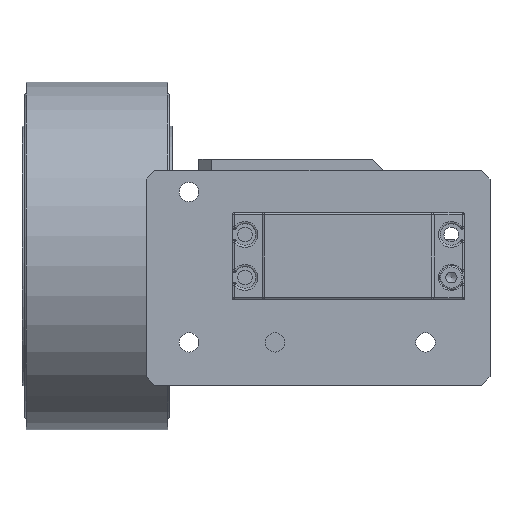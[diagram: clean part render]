
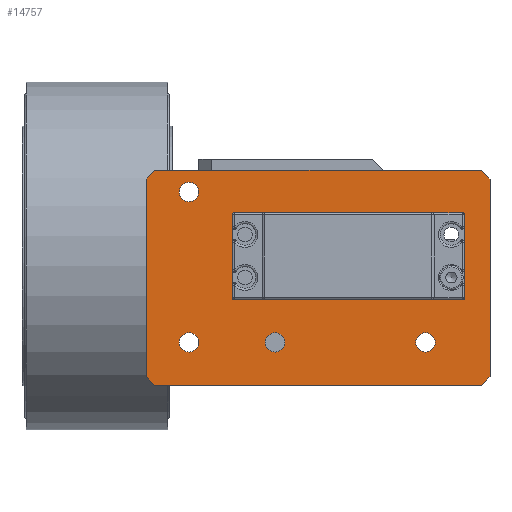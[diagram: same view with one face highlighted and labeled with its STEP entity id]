
A CAD part, front view. The second image highlights one B-rep face of the part: STEP entity #14757.
In plain terms, the highlighted planar face has unit normal (0, -1, 0).
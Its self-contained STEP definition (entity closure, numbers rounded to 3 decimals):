
#1045=FACE_BOUND('',#2924,.T.);
#1046=FACE_BOUND('',#2925,.T.);
#1047=FACE_BOUND('',#2926,.T.);
#1048=FACE_BOUND('',#2927,.T.);
#1049=FACE_BOUND('',#2928,.T.);
#1215=CIRCLE('',#15977,2.25);
#1219=CIRCLE('',#15984,2.25);
#1223=CIRCLE('',#15991,2.25);
#1227=CIRCLE('',#15998,2.25);
#2005=FACE_OUTER_BOUND('',#2923,.T.);
#2923=EDGE_LOOP('',(#10165,#10166,#10167,#10168,#10169,#10170,#10171,#10172));
#2924=EDGE_LOOP('',(#10173));
#2925=EDGE_LOOP('',(#10174));
#2926=EDGE_LOOP('',(#10175));
#2927=EDGE_LOOP('',(#10176));
#2928=EDGE_LOOP('',(#10177,#10178,#10179,#10180));
#4053=LINE('',#22493,#5280);
#4056=LINE('',#22498,#5283);
#4058=LINE('',#22502,#5285);
#4066=LINE('',#22520,#5293);
#4069=LINE('',#22525,#5296);
#4070=LINE('',#22527,#5297);
#4072=LINE('',#22531,#5299);
#4073=LINE('',#22532,#5300);
#4074=LINE('',#22535,#5301);
#4075=LINE('',#22537,#5302);
#4076=LINE('',#22539,#5303);
#4077=LINE('',#22540,#5304);
#5280=VECTOR('',#17888,10.);
#5283=VECTOR('',#17893,10.);
#5285=VECTOR('',#17897,10.);
#5293=VECTOR('',#17909,10.);
#5296=VECTOR('',#17914,10.);
#5297=VECTOR('',#17917,10.);
#5299=VECTOR('',#17921,10.);
#5300=VECTOR('',#17922,10.);
#5301=VECTOR('',#17923,10.);
#5302=VECTOR('',#17924,10.);
#5303=VECTOR('',#17925,10.);
#5304=VECTOR('',#17926,10.);
#6443=VERTEX_POINT('',#22360);
#6447=VERTEX_POINT('',#22373);
#6451=VERTEX_POINT('',#22386);
#6455=VERTEX_POINT('',#22399);
#6490=VERTEX_POINT('',#22490);
#6491=VERTEX_POINT('',#22492);
#6492=VERTEX_POINT('',#22496);
#6493=VERTEX_POINT('',#22500);
#6500=VERTEX_POINT('',#22517);
#6501=VERTEX_POINT('',#22519);
#6502=VERTEX_POINT('',#22523);
#6503=VERTEX_POINT('',#22530);
#6504=VERTEX_POINT('',#22533);
#6505=VERTEX_POINT('',#22534);
#6506=VERTEX_POINT('',#22536);
#6507=VERTEX_POINT('',#22538);
#7830=EDGE_CURVE('',#6443,#6443,#1215,.T.);
#7836=EDGE_CURVE('',#6447,#6447,#1219,.T.);
#7842=EDGE_CURVE('',#6451,#6451,#1223,.T.);
#7848=EDGE_CURVE('',#6455,#6455,#1227,.T.);
#7892=EDGE_CURVE('',#6490,#6491,#4053,.T.);
#7895=EDGE_CURVE('',#6492,#6490,#4056,.T.);
#7897=EDGE_CURVE('',#6493,#6492,#4058,.T.);
#7905=EDGE_CURVE('',#6500,#6501,#4066,.T.);
#7908=EDGE_CURVE('',#6502,#6500,#4069,.T.);
#7909=EDGE_CURVE('',#6491,#6502,#4070,.T.);
#7911=EDGE_CURVE('',#6503,#6493,#4072,.T.);
#7912=EDGE_CURVE('',#6501,#6503,#4073,.T.);
#7913=EDGE_CURVE('',#6504,#6505,#4074,.T.);
#7914=EDGE_CURVE('',#6505,#6506,#4075,.T.);
#7915=EDGE_CURVE('',#6506,#6507,#4076,.T.);
#7916=EDGE_CURVE('',#6507,#6504,#4077,.T.);
#10165=ORIENTED_EDGE('',*,*,#7897,.F.);
#10166=ORIENTED_EDGE('',*,*,#7911,.F.);
#10167=ORIENTED_EDGE('',*,*,#7912,.F.);
#10168=ORIENTED_EDGE('',*,*,#7905,.F.);
#10169=ORIENTED_EDGE('',*,*,#7908,.F.);
#10170=ORIENTED_EDGE('',*,*,#7909,.F.);
#10171=ORIENTED_EDGE('',*,*,#7892,.F.);
#10172=ORIENTED_EDGE('',*,*,#7895,.F.);
#10173=ORIENTED_EDGE('',*,*,#7830,.T.);
#10174=ORIENTED_EDGE('',*,*,#7836,.T.);
#10175=ORIENTED_EDGE('',*,*,#7842,.T.);
#10176=ORIENTED_EDGE('',*,*,#7848,.T.);
#10177=ORIENTED_EDGE('',*,*,#7913,.T.);
#10178=ORIENTED_EDGE('',*,*,#7914,.T.);
#10179=ORIENTED_EDGE('',*,*,#7915,.T.);
#10180=ORIENTED_EDGE('',*,*,#7916,.T.);
#14309=PLANE('',#16021);
#14757=ADVANCED_FACE('',(#2005,#1045,#1046,#1047,#1048,#1049),#14309,.F.);
#15977=AXIS2_PLACEMENT_3D('',#22362,#17767,#17768);
#15984=AXIS2_PLACEMENT_3D('',#22375,#17783,#17784);
#15991=AXIS2_PLACEMENT_3D('',#22388,#17799,#17800);
#15998=AXIS2_PLACEMENT_3D('',#22401,#17815,#17816);
#16021=AXIS2_PLACEMENT_3D('',#22529,#17919,#17920);
#17767=DIRECTION('center_axis',(0.,1.,0.));
#17768=DIRECTION('ref_axis',(1.,0.,0.));
#17783=DIRECTION('center_axis',(0.,1.,0.));
#17784=DIRECTION('ref_axis',(1.,0.,0.));
#17799=DIRECTION('center_axis',(0.,1.,0.));
#17800=DIRECTION('ref_axis',(1.,0.,0.));
#17815=DIRECTION('center_axis',(0.,1.,0.));
#17816=DIRECTION('ref_axis',(1.,0.,0.));
#17888=DIRECTION('',(-0.707,0.,-0.707));
#17893=DIRECTION('',(0.,0.,-1.));
#17897=DIRECTION('',(0.707,0.,-0.707));
#17909=DIRECTION('',(0.,0.,1.));
#17914=DIRECTION('',(-0.707,0.,0.707));
#17917=DIRECTION('',(-1.,0.,0.));
#17919=DIRECTION('center_axis',(0.,1.,0.));
#17920=DIRECTION('ref_axis',(0.,0.,1.));
#17921=DIRECTION('',(1.,0.,0.));
#17922=DIRECTION('',(0.707,0.,0.707));
#17923=DIRECTION('',(1.,0.,0.));
#17924=DIRECTION('',(0.,0.,-1.));
#17925=DIRECTION('',(-1.,0.,0.));
#17926=DIRECTION('',(0.,0.,1.));
#22360=CARTESIAN_POINT('',(7.75,0.,-20.));
#22362=CARTESIAN_POINT('Origin',(10.,0.,-20.));
#22373=CARTESIAN_POINT('',(-27.25,0.,-20.));
#22375=CARTESIAN_POINT('Origin',(-25.,0.,-20.));
#22386=CARTESIAN_POINT('',(-47.25,0.,15.));
#22388=CARTESIAN_POINT('Origin',(-45.,0.,15.));
#22399=CARTESIAN_POINT('',(-47.25,0.,-20.));
#22401=CARTESIAN_POINT('Origin',(-45.,0.,-20.));
#22490=CARTESIAN_POINT('',(25.,0.,-28.));
#22492=CARTESIAN_POINT('',(23.,0.,-30.));
#22493=CARTESIAN_POINT('',(20.25,0.,-32.75));
#22496=CARTESIAN_POINT('',(25.,0.,18.));
#22498=CARTESIAN_POINT('',(25.,0.,20.));
#22500=CARTESIAN_POINT('',(23.,0.,20.));
#22502=CARTESIAN_POINT('',(20.25,0.,22.75));
#22517=CARTESIAN_POINT('',(-55.,0.,-28.));
#22519=CARTESIAN_POINT('',(-55.,0.,18.));
#22520=CARTESIAN_POINT('',(-55.,0.,-30.));
#22523=CARTESIAN_POINT('',(-53.,0.,-30.));
#22525=CARTESIAN_POINT('',(-50.25,0.,-32.75));
#22527=CARTESIAN_POINT('',(25.,0.,-30.));
#22529=CARTESIAN_POINT('Origin',(-15.,0.,-5.));
#22530=CARTESIAN_POINT('',(-53.,0.,20.));
#22531=CARTESIAN_POINT('',(-55.,0.,20.));
#22532=CARTESIAN_POINT('',(-50.25,0.,22.75));
#22533=CARTESIAN_POINT('',(-35.,0.,10.1));
#22534=CARTESIAN_POINT('',(19.,0.,10.1));
#22535=CARTESIAN_POINT('',(-1.5,0.,10.1));
#22536=CARTESIAN_POINT('',(19.,0.,-10.1));
#22537=CARTESIAN_POINT('',(19.,0.,2.55));
#22538=CARTESIAN_POINT('',(-35.,0.,-10.1));
#22539=CARTESIAN_POINT('',(2.,0.,-10.1));
#22540=CARTESIAN_POINT('',(-35.,0.,-7.55));
